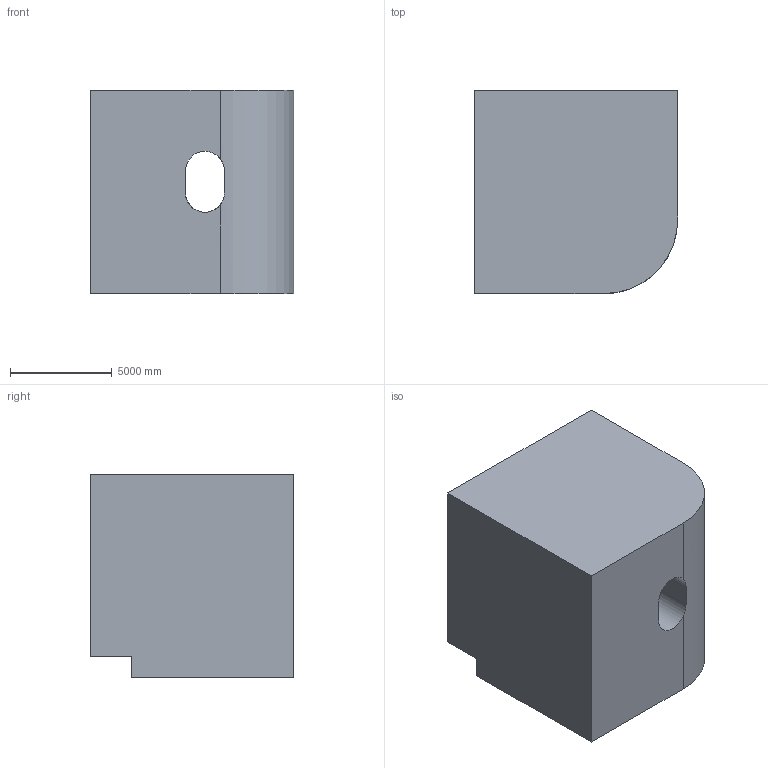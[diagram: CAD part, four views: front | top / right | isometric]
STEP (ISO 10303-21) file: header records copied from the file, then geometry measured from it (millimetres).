
FILE_DESCRIPTION (( 'STEP AP203' ), '1' );
FILE_NAME ('1284.STEP', '2022-08-18T13:33:35', ( 'user' ), ( '' ), 'SwSTEP 2.0', 'SolidWorks 2021', '' );
FILE_SCHEMA (( 'CONFIG_CONTROL_DESIGN' ));
Length unit declared in the file: centimetre
Products named in the file (1): 1284
Bounding box: 10000 x 10000 x 10000 mm (x, y, z)
Volume: 901572812127.8 mm3; surface area: 646569494.4 mm2
Topology: 1 solids, 1 shells, 14 faces, 39 edges, 26 vertices
Faces by surface type: plane 10, cylinder 4
Entity records: 574 total; most frequent: CARTESIAN_POINT 126, ORIENTED_EDGE 78, DIRECTION 75, EDGE_CURVE 39, LINE 29, VECTOR 29, VERTEX_POINT 26, AXIS2_PLACEMENT_3D 23
